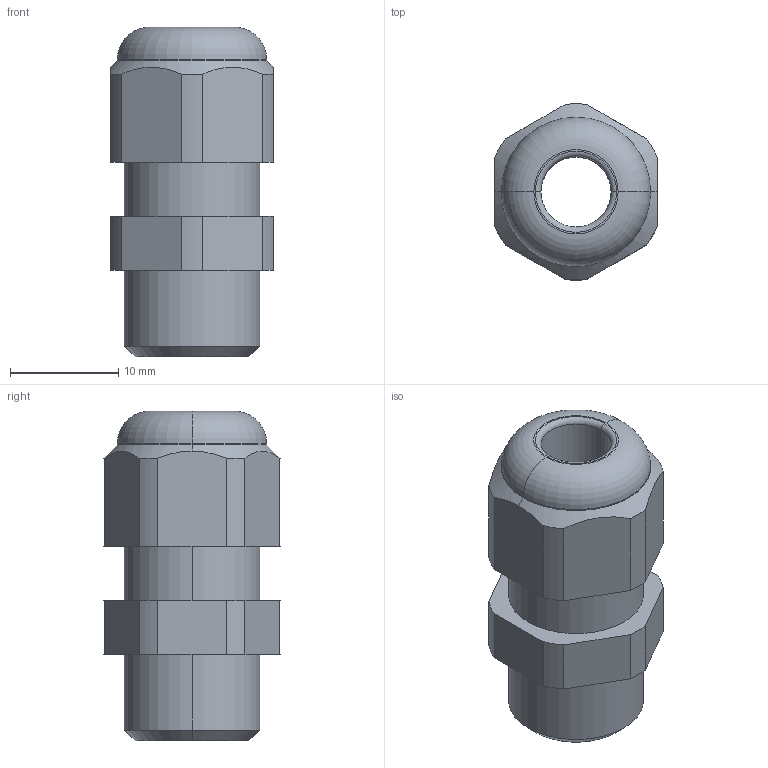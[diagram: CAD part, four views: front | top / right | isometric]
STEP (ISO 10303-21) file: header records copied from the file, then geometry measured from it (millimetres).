
FILE_DESCRIPTION (( 'STEP AP203' ), '1' );
FILE_NAME ('50.007 PA.STEP', '2006-11-07T08:19:43', ( ' ' ), ( '' ), 'SwSTEP 2.0', 'SolidWorks 2005278', '' );
FILE_SCHEMA (( 'CONFIG_CONTROL_DESIGN' ));
Length unit declared in the file: millimetre
Products named in the file (1): 50.007 PA
Bounding box: 15 x 16.29 x 30.5 mm (x, y, z)
Volume: 3689.1 mm3; surface area: 2324.1 mm2
Topology: 1 solids, 1 shells, 84 faces, 218 edges, 142 vertices
Faces by surface type: plane 54, cylinder 20, torus 6, cone 4
Entity records: 2689 total; most frequent: CARTESIAN_POINT 513, ORIENTED_EDGE 436, DIRECTION 434, EDGE_CURVE 218, VECTOR 156, LINE 156, VERTEX_POINT 142, AXIS2_PLACEMENT_3D 139
